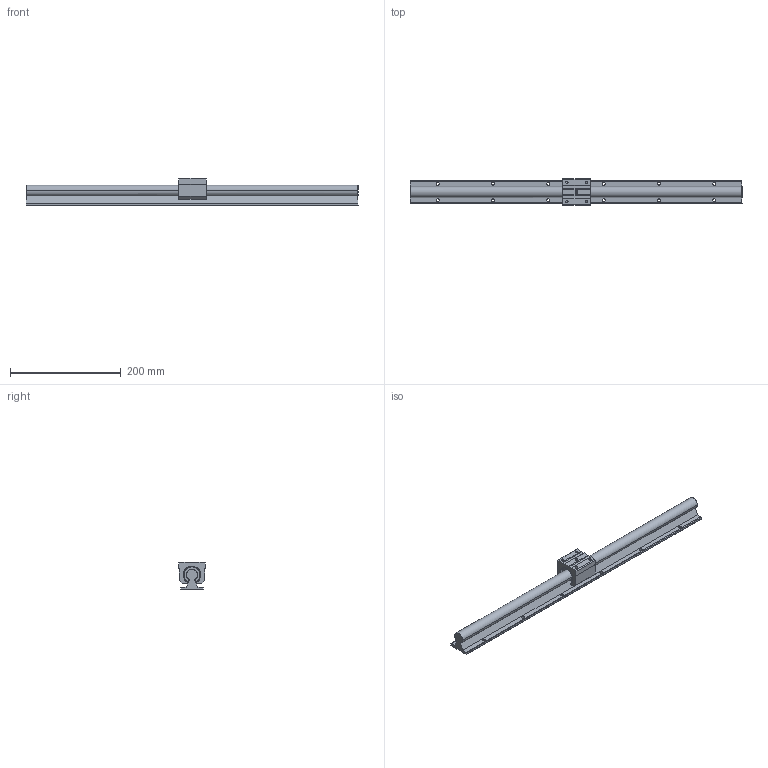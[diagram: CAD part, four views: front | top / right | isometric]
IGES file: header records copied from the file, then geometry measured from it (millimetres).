
Global section: file name: No Iges File Name specified; native system: AutoDesk Inventor R11.0; preprocessor: AutoDesk Inventor Iges Exporter R11.0; author: No Author specified; organization: No Organization specified; date: 20150528.094103; units: millimetre
Bounding box: 600 x 48 x 50 mm (x, y, z)
Surface area: 109118.2 mm2 (no closed solid volume)
Topology: 0 solids, 0 shells, 227 faces, 1524 edges, 1502 vertices
Faces by surface type: bspline 227
